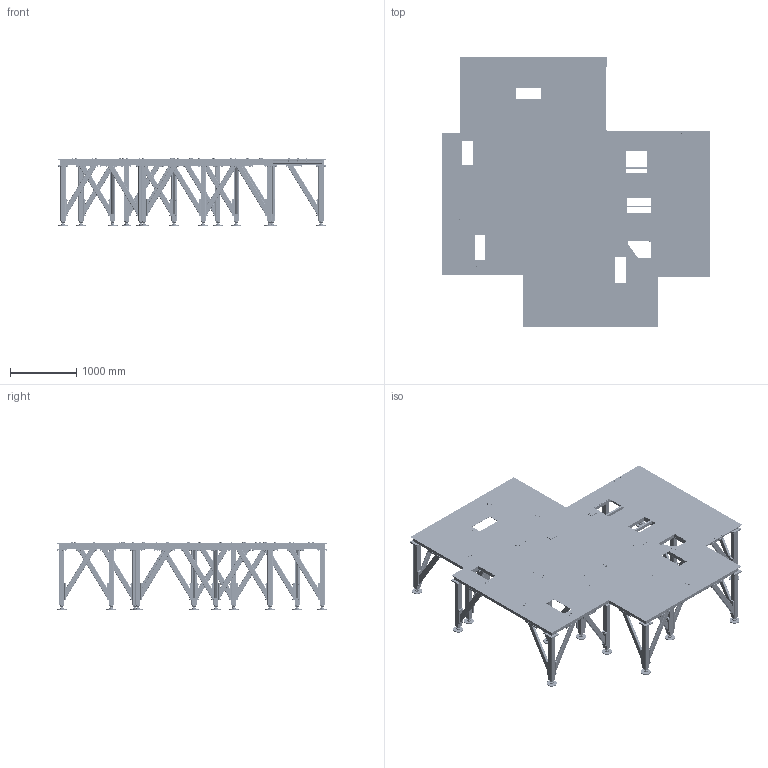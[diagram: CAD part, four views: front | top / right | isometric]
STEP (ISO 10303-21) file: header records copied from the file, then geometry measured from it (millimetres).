
FILE_DESCRIPTION (( 'STEP AP214' ), '1' );
FILE_NAME ('CANEL300A CHASSIS.STEP', '2024-07-18T15:55:25', ( '' ), ( '' ), 'SwSTEP 2.0', 'SolidWorks 2017', '' );
FILE_SCHEMA (( 'AUTOMOTIVE_DESIGN' ));
Length unit declared in the file: millimetre
Products named in the file (27): Z-M12 ASSY_21.5; PIC-CANEL-05_3<Brut d''usinage>; z_NUT_H_NUT H M 12; CANEL300A-ESQ; PIC-CANEL-07_DWG; PIC-CANEL-05_3; PIC-CANEL300A-03; CANEL300A CHASSIS; PIC-CANEL-05_2<Brut d''usinage>; PIC-CANEL300A-02_D‚faut<Brut d''usinage>; Z-Vis H M12_vis H M12-50; PIC-CANEL-06_1<Brut d''usinage>; Z-Vis H M12_vis H M12-120; PIC-CANEL-07; PIC-CANEL-05_2; Z_Screw_H_SCREW H M10x25-25; Z-M12 ASSY_95.5; PIC-CANEL300A-03_INOX DWG; PIC-CANEL-05_1; Z-M10 assy-; Z-M12 ASSY_160; Z-ecrou_m36; PIC-CANEL-05_1<Brut d''usinage>; Z-m36x140; z_Washer_WASHER M 12; Z-Washer_WASHER M 10; Z-TIGE-FILETEE-M12_M12x200
Assembly tree (320 placements, depth 4):
  CANEL300A CHASSIS
    CANEL300A-ESQ
    PIC-CANEL300A-02_D‚faut<Brut d''usinage>
    PIC-CANEL300A-03
    PIC-CANEL300A-03_INOX DWG  x2
    PIC-CANEL-05_2  x11
      PIC-CANEL-05_1<Brut d''usinage>
      Z-M10 assy-
        Z_Screw_H_SCREW H M10x25-25
        Z-Washer_WASHER M 10
      PIC-CANEL-06_1<Brut d''usinage>
      PIC-CANEL-07_DWG
        Z-m36x140
        Z-ecrou_m36
        PIC-CANEL-07
    PIC-CANEL-05_1  x4
      PIC-CANEL-05_2<Brut d''usinage>
      Z-M10 assy-
        Z_Screw_H_SCREW H M10x25-25
        Z-Washer_WASHER M 10
      PIC-CANEL-06_1<Brut d''usinage>
      PIC-CANEL-07_DWG
        Z-m36x140
        Z-ecrou_m36
        PIC-CANEL-07
    PIC-CANEL-05_3  x5
      PIC-CANEL-05_3<Brut d''usinage>
      Z-M10 assy-
        Z_Screw_H_SCREW H M10x25-25
        Z-Washer_WASHER M 10
      PIC-CANEL-06_1<Brut d''usinage>
      PIC-CANEL-07_DWG
        Z-m36x140
        Z-ecrou_m36
        PIC-CANEL-07
    Z-M12 ASSY_160  x16
      Z-TIGE-FILETEE-M12_M12x200
      z_Washer_WASHER M 12
      z_NUT_H_NUT H M 12
    Z-M10 assy-  x160
      Z_Screw_H_SCREW H M10x25-25
      Z-Washer_WASHER M 10
    Z-M12 ASSY_21.5  x32
      z_Washer_WASHER M 12
      z_NUT_H_NUT H M 12
      Z-Vis H M12_vis H M12-50
    Z-M12 ASSY_95.5  x9
      z_Washer_WASHER M 12
      z_NUT_H_NUT H M 12
      Z-Vis H M12_vis H M12-120
Bounding box: 4050 x 4090 x 1030 mm (x, y, z)
Volume: 247811230.8 mm3; surface area: 147351472.4 mm2
Topology: 1733 solids, 1733 shells, 23759 faces, 56474 edges, 36710 vertices
Faces by surface type: plane 10472, cylinder 9233, cone 4014, bspline 40
Entity records: 184410 total; most frequent: DIRECTION 30275, CARTESIAN_POINT 30136, ORIENTED_EDGE 27356, EDGE_CURVE 13678, AXIS2_PLACEMENT_3D 11540, VERTEX_POINT 9003, EDGE_LOOP 7547, VECTOR 7195
